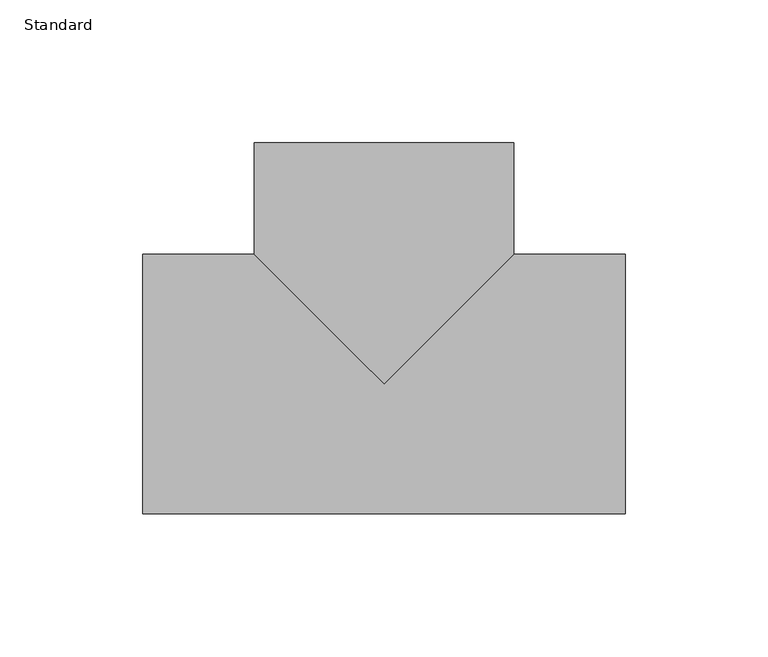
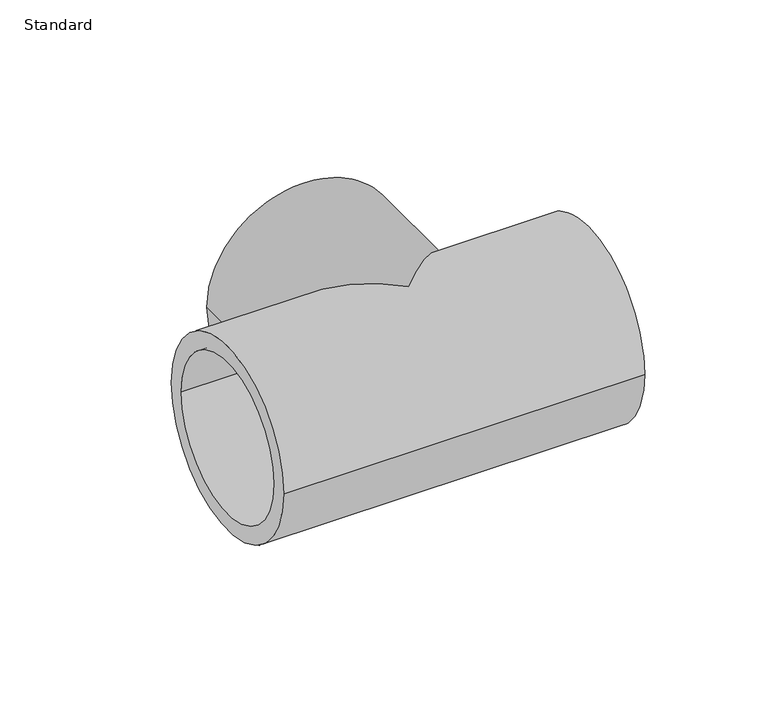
"""IFC4 building model written with IfcOpenShell, lengths in millimetres: pipe fitting geometry, Durapipe_PipeFitting_PVC_Tee90degEqual : Standard."""

from ifc_helpers import new_model, si_unit, frame, origin, place, context, project, spatial, polyline, circle_curve, ellipse_curve, source, transform, mapped, element, save
from ifc_brep_helpers import plane_surface, cylinder_surface, revolved_surface, advanced_brep


def standard_87a3b79a(model_context):
    return source(origin(), model_context, "Body", "AdvancedBrep", [
        advanced_brep(
        [(-45.5, 84.5, 0.0), (45.5, 84.5, 0.0), (-37.5, 84.5, 0.0), (37.5, 84.5, 0.0), (-45.5, 45.5, 0.0), (0.0, 0.0, 45.5), (45.5, 45.5, 0.0), (0.0, 0.0, -45.5), (-84.5, -45.5, 0.0), (-84.5, 45.5, 0.0), (-84.5, -37.5, 0.0), (-84.5, 37.5, 0.0), (84.5, -45.5, 0.0), (84.5, 45.5, 0.0), (84.5, 37.5, 0.0), (84.5, -37.5, 0.0), (37.5, 40.5, 0.0), (-37.5, 40.5, 0.0), (0.0, 40.5, 0.0), (40.5, -37.5, 0.0), (40.5, 37.5, 0.0), (40.5, 0.0, 0.0), (-40.5, -37.5, 0.0), (-40.5, 37.5, 0.0), (-40.5, 0.0, 0.0)],
        [
            (0, 1, circle_curve(frame((0.0, 84.5, 0.0), z_axis=(0.0, 1.0, 0.0), x_axis=(1.0, 0.0, 0.0)), 45.5)),
            (1, 0, circle_curve(frame((0.0, 84.5, 0.0), z_axis=(0.0, 1.0, 0.0), x_axis=(1.0, 0.0, 0.0)), 45.5)),
            (2, 3, circle_curve(frame((0.0, 84.5, 0.0), z_axis=(0.0, -1.0, 0.0), x_axis=(-1.0, 0.0, 0.0)), 37.5)),
            (3, 2, circle_curve(frame((0.0, 84.5, 0.0), z_axis=(0.0, -1.0, 0.0), x_axis=(-1.0, 0.0, 0.0)), 37.5)),
            (0, 4),
            (4, 5, ellipse_curve(frame((0.0, 0.0, 0.0), z_axis=(0.7071067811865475, 0.7071067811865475, 0.0), x_axis=(-0.7071067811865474, 0.7071067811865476, 0.0)), 64.3467171, 45.5)),
            (5, 6, ellipse_curve(frame((0.0, 0.0, 0.0), z_axis=(-0.7071067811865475, 0.7071067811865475, 0.0), x_axis=(0.7071067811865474, 0.7071067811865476, 0.0)), 64.3467171, 45.5)),
            (6, 1),
            (6, 7, ellipse_curve(frame((0.0, 0.0, 0.0), z_axis=(-0.7071067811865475, 0.7071067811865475, 0.0), x_axis=(0.7071067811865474, 0.7071067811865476, 0.0)), 64.3467171, 45.5)),
            (7, 4, ellipse_curve(frame((0.0, 0.0, 0.0), z_axis=(0.7071067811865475, 0.7071067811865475, 0.0), x_axis=(-0.7071067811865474, 0.7071067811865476, 0.0)), 64.3467171, 45.5)),
            (8, 9, circle_curve(frame((-84.5, 0.0, 0.0), z_axis=(-1.0, 0.0, 0.0), x_axis=(0.0, 1.0, 0.0)), 45.5)),
            (9, 8, circle_curve(frame((-84.5, 0.0, 0.0), z_axis=(-1.0, 0.0, 0.0), x_axis=(0.0, 1.0, 0.0)), 45.5)),
            (10, 11, circle_curve(frame((-84.5, 0.0, 0.0), z_axis=(1.0, 0.0, 0.0), x_axis=(0.0, 1.0, 0.0)), 37.5)),
            (11, 10, circle_curve(frame((-84.5, 0.0, 0.0), z_axis=(1.0, 0.0, 0.0), x_axis=(0.0, 1.0, 0.0)), 37.5)),
            (12, 13, circle_curve(frame((84.5, 0.0, 0.0), z_axis=(1.0, 0.0, 0.0), x_axis=(0.0, 1.0, 0.0)), 45.5)),
            (13, 12, circle_curve(frame((84.5, 0.0, 0.0), z_axis=(1.0, 0.0, 0.0), x_axis=(0.0, 1.0, 0.0)), 45.5)),
            (14, 15, circle_curve(frame((84.5, 0.0, 0.0), z_axis=(-1.0, 0.0, 0.0), x_axis=(0.0, 1.0, 0.0)), 37.5)),
            (15, 14, circle_curve(frame((84.5, 0.0, 0.0), z_axis=(-1.0, 0.0, 0.0), x_axis=(0.0, 1.0, 0.0)), 37.5)),
            (8, 12),
            (13, 6),
            (4, 9),
            (16, 3),
            (2, 17),
            (17, 16, circle_curve(frame((0.0, 40.5, 0.0), z_axis=(0.0, -1.0, 0.0), x_axis=(-1.0, 0.0, 0.0)), 37.5)),
            (16, 17, circle_curve(frame((0.0, 40.5, 0.0), z_axis=(0.0, -1.0, 0.0), x_axis=(-1.0, 0.0, 0.0)), 37.5)),
            (17, 18),
            (18, 16),
            (19, 15),
            (14, 20),
            (20, 19, circle_curve(frame((40.5, 0.0, 0.0), z_axis=(-1.0, 0.0, 0.0), x_axis=(0.0, 1.0, 0.0)), 37.5)),
            (19, 20, circle_curve(frame((40.5, 0.0, 0.0), z_axis=(-1.0, 0.0, 0.0), x_axis=(0.0, 1.0, 0.0)), 37.5)),
            (20, 21),
            (21, 19),
            (10, 22),
            (22, 23, circle_curve(frame((-40.5, 0.0, 0.0), z_axis=(1.0, 0.0, 0.0), x_axis=(0.0, 1.0, 0.0)), 37.5)),
            (23, 11),
            (23, 22, circle_curve(frame((-40.5, 0.0, 0.0), z_axis=(1.0, 0.0, 0.0), x_axis=(0.0, 1.0, 0.0)), 37.5)),
            (22, 24),
            (24, 23),
        ],
        [
            plane_surface(frame((0.0, 84.5, 0.0), z_axis=(0.0, 1.0, 0.0), x_axis=(0.0, 0.0, 1.0))),
            cylinder_surface(frame((0.0, 84.5, 0.0), z_axis=(0.0, 1.0, 0.0), x_axis=(1.0, 0.0, 0.0)), 45.5),
            plane_surface(frame((-84.5, 0.0, 0.0), z_axis=(-1.0, 0.0, 0.0), x_axis=(0.0, 0.0, 1.0))),
            plane_surface(frame((84.5, 0.0, 0.0), z_axis=(1.0, 0.0, 0.0), x_axis=(0.0, 0.0, 1.0))),
            cylinder_surface(frame((-84.5, 0.0, 0.0), z_axis=(-1.0, 0.0, 0.0), x_axis=(0.0, 1.0, 0.0)), 45.5),
            revolved_surface(polyline([(-37.5, 40.5, 0.0), (-37.5, 84.5, 0.0)]), (0.0, 2059.5, 0.0), (0.0, -1.0, 0.0)),
            plane_surface(frame((0.0, 40.5, 0.0), z_axis=(0.0, 1.0, 0.0), x_axis=(-1.0, 0.0, 0.0))),
            revolved_surface(polyline([(40.5, 37.5, 0.0), (84.5, 37.5, 0.0)]), (2061.0, 0.0, 0.0), (-1.0, 0.0, 0.0)),
            plane_surface(frame((40.5, 0.0, 0.0), z_axis=(1.0, 0.0, 0.0), x_axis=(0.0, 1.0, 0.0))),
            revolved_surface(polyline([(-84.5, 37.5, 0.0), (-40.5, 37.5, 0.0)]), (2061.0, 0.0, 0.0), (-1.0, 0.0, 0.0)),
            plane_surface(frame((-40.5, 0.0, 0.0), z_axis=(-1.0, 0.0, 0.0), x_axis=(0.0, 1.0, 0.0))),
        ],
        [
            (0, [[1, 2], [3, 4]]),
            (1, [[-1, 5, 6, 7, 8]]),
            (1, [[-2, -8, 9, 10, -5]]),
            (2, [[11, 12], [13, 14]]),
            (3, [[15, 16], [17, 18]]),
            (4, [[-11, 19, -16, 20, -7, -6, 21]]),
            (4, [[-12, -21, -10, -9, -20, -15, -19]]),
            (5, [[22, -3, 23, 24]]),
            (5, [[-22, 25, -23, -4]]),
            (6, [[-24, 26, 27]]),
            (6, [[-25, -27, -26]]),
            (7, [[28, -17, 29, 30]]),
            (7, [[-28, 31, -29, -18]]),
            (8, [[-30, 32, 33]]),
            (8, [[-31, -33, -32]]),
            (9, [[34, 35, 36, -13]]),
            (9, [[-34, -14, -36, 37]]),
            (10, [[-35, 38, 39]]),
            (10, [[-37, -39, -38]]),
        ],
    ),
    ])


if __name__ == "__main__":
    model = new_model("IFC4")
    model_context = context("Model", 3, world=origin())
    ifc_project = project(units=[si_unit("LENGTHUNIT", "METRE", prefix="MILLI")], contexts=[model_context])
    site = spatial("IfcSite", under=ifc_project)
    building = spatial("IfcBuilding", under=site)
    placement = place(None, origin())
    standard_shape = standard_87a3b79a(model_context)
    element("IfcPipeFitting", 1, ObjectType="Durapipe_PipeFitting_PVC_Tee90degEqual : Standard", at=placement, inside=building, context=model_context, shape_type="MappedRepresentation", body=[
        mapped(standard_shape, transform((0.0, 0.0, 0.0), x_axis=(1.0, 0.0, 0.0), y_axis=(0.0, 1.0, 0.0), z_axis=(0.0, 0.0, 1.0))),
    ])
    save(model, "model.ifc")
